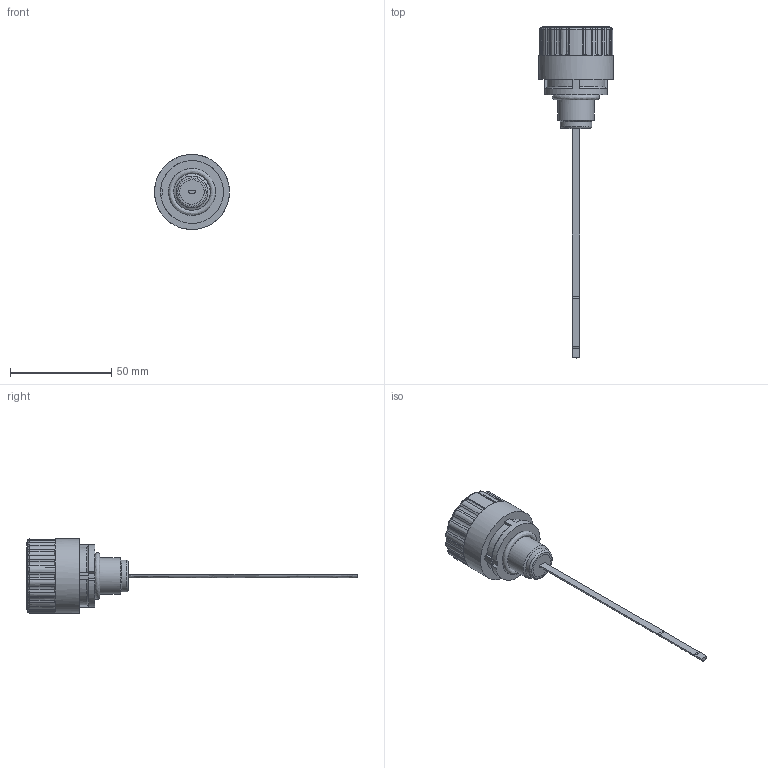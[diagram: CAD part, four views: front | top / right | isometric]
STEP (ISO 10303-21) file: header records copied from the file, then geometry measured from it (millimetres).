
FILE_DESCRIPTION((''),'2;1');
FILE_NAME('U:\Users\r.stiegele\L1_0406-56(12153500).stp', '2014-03-11T07:45:27',('User'),('SDRC'),'I-DEAS Master Series 9','UNIX', 'Yes');
FILE_SCHEMA(('AUTOMOTIVE_DESIGN { 1 0 10303 214 1 1 1 1 }'));
Length unit declared in the file: millimetre
Products named in the file (1): 12153500(334696)
Bounding box: 36.98 x 163.9 x 37 mm (x, y, z)
Volume: 37602.1 mm3; surface area: 8328.3 mm2
Topology: 1 solids, 1 shells, 442 faces, 1184 edges, 759 vertices
Faces by surface type: bspline 442
Entity records: 13684 total; most frequent: CARTESIAN_POINT 6714, ORIENTED_EDGE 2360, EDGE_CURVE 1180, VERTEX_POINT 759, B_SPLINE_CURVE_WITH_KNOTS 577, EDGE_LOOP 461, FACE_OUTER_BOUND 442, ADVANCED_FACE 442
